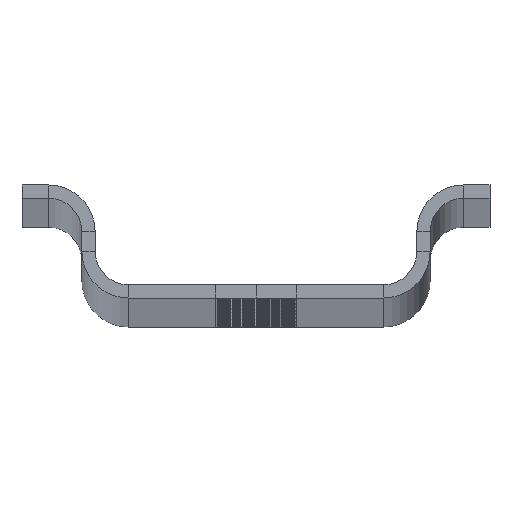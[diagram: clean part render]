
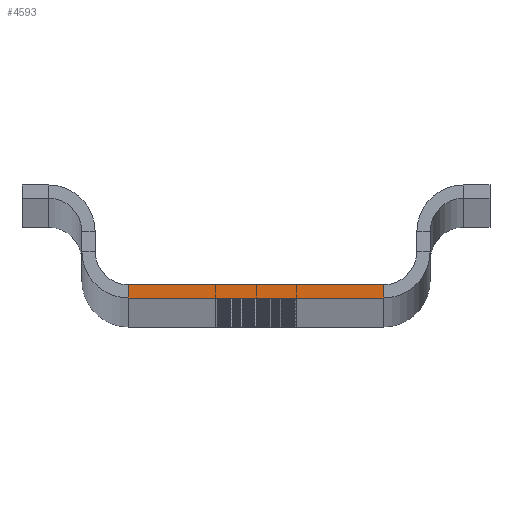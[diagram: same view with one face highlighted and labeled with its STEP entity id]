
A CAD part, top view. The second image highlights one B-rep face of the part: STEP entity #4593.
In plain terms, the highlighted planar face has unit normal (0, 0, 1).
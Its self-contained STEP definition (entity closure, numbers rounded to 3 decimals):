
#293 = VECTOR ( 'NONE', #914, 1000. ) ;
#524 = EDGE_CURVE ( 'NONE', #5287, #872, #2306, .T. ) ;
#671 = VECTOR ( 'NONE', #2852, 1000. ) ;
#872 = VERTEX_POINT ( 'NONE', #3648 ) ;
#914 = DIRECTION ( 'NONE',  ( 0., -1., 0. ) ) ;
#1301 = CARTESIAN_POINT ( 'NONE',  ( 9.6, 0., 1250. ) ) ;
#1328 = LINE ( 'NONE', #6403, #4021 ) ;
#1581 = AXIS2_PLACEMENT_3D ( 'NONE', #7708, #5473, #8360 ) ;
#1694 = EDGE_CURVE ( 'NONE', #2462, #7287, #1328, .T. ) ;
#2306 = LINE ( 'NONE', #4617, #293 ) ;
#2462 = VERTEX_POINT ( 'NONE', #4730 ) ;
#2549 = DIRECTION ( 'NONE',  ( 0., 1., 0. ) ) ;
#2622 = LINE ( 'NONE', #3467, #6969 ) ;
#2852 = DIRECTION ( 'NONE',  ( -1., 0., 0. ) ) ;
#3378 = LINE ( 'NONE', #8866, #671 ) ;
#3441 = DIRECTION ( 'NONE',  ( -1., 0., 0. ) ) ;
#3467 = CARTESIAN_POINT ( 'NONE',  ( -12.1, 0., 1250. ) ) ;
#3648 = CARTESIAN_POINT ( 'NONE',  ( -9.6, -1., 1250. ) ) ;
#4021 = VECTOR ( 'NONE', #2549, 1000. ) ;
#4593 = ADVANCED_FACE ( 'NONE', ( #7639 ), #6986, .T. ) ;
#4617 = CARTESIAN_POINT ( 'NONE',  ( -9.6, 0., 1250. ) ) ;
#4730 = CARTESIAN_POINT ( 'NONE',  ( 9.6, -1., 1250. ) ) ;
#4924 = ORIENTED_EDGE ( 'NONE', *, *, #1694, .T. ) ;
#5287 = VERTEX_POINT ( 'NONE', #6874 ) ;
#5473 = DIRECTION ( 'NONE',  ( 0., 0., 1. ) ) ;
#5640 = ORIENTED_EDGE ( 'NONE', *, *, #6856, .F. ) ;
#6403 = CARTESIAN_POINT ( 'NONE',  ( 9.6, -1., 1250. ) ) ;
#6531 = ORIENTED_EDGE ( 'NONE', *, *, #524, .T. ) ;
#6856 = EDGE_CURVE ( 'NONE', #2462, #872, #3378, .T. ) ;
#6874 = CARTESIAN_POINT ( 'NONE',  ( -9.6, 0., 1250. ) ) ;
#6969 = VECTOR ( 'NONE', #3441, 1000. ) ;
#6986 = PLANE ( 'NONE',  #1581 ) ;
#7287 = VERTEX_POINT ( 'NONE', #1301 ) ;
#7639 = FACE_OUTER_BOUND ( 'NONE', #8501, .T. ) ;
#7708 = CARTESIAN_POINT ( 'NONE',  ( -13.1, 2.5, 1250. ) ) ;
#7954 = ORIENTED_EDGE ( 'NONE', *, *, #9028, .T. ) ;
#8360 = DIRECTION ( 'NONE',  ( 1., 0., 0. ) ) ;
#8501 = EDGE_LOOP ( 'NONE', ( #7954, #6531, #5640, #4924 ) ) ;
#8866 = CARTESIAN_POINT ( 'NONE',  ( -12.1, -1., 1250. ) ) ;
#9028 = EDGE_CURVE ( 'NONE', #7287, #5287, #2622, .T. ) ;
